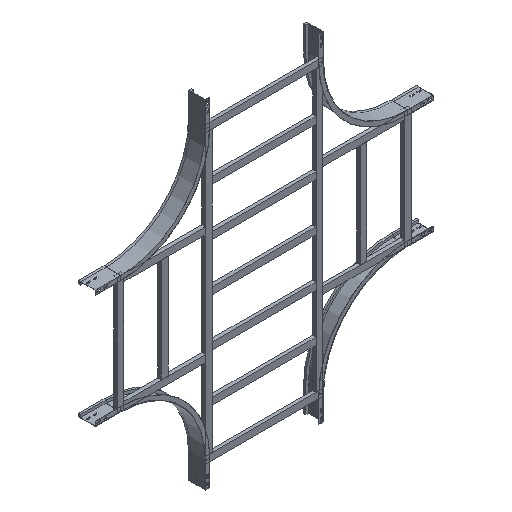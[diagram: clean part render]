
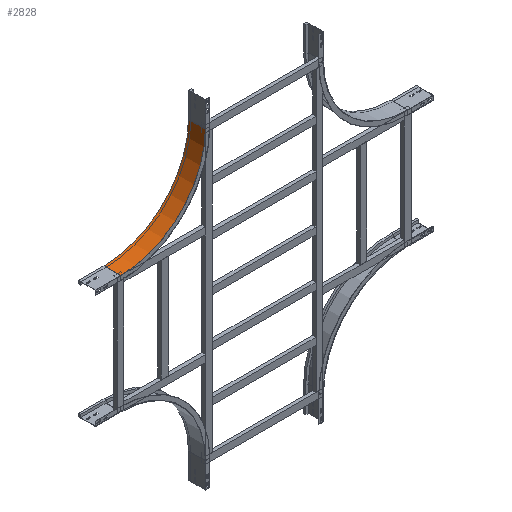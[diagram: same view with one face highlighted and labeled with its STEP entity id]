
A CAD part, isometric view. The second image highlights one B-rep face of the part: STEP entity #2828.
In plain terms, the highlighted cylindrical face has radius 500 mm (diameter 1000 mm), a partial arc.
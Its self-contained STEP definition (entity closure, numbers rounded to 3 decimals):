
#65 = ORIENTED_EDGE ( 'NONE', *, *, #2719, .T. ) ;
#101 = CARTESIAN_POINT ( 'NONE',  ( 500., 100., -650. ) ) ;
#131 = CARTESIAN_POINT ( 'NONE',  ( 500., 100., -150. ) ) ;
#159 = ORIENTED_EDGE ( 'NONE', *, *, #606, .F. ) ;
#242 = CARTESIAN_POINT ( 'NONE',  ( 500., 0., -150. ) ) ;
#268 = CARTESIAN_POINT ( 'NONE',  ( 0., 100., -150. ) ) ;
#333 = LINE ( 'NONE', #346, #2154 ) ;
#346 = CARTESIAN_POINT ( 'NONE',  ( 500., 0., -650. ) ) ;
#375 = CARTESIAN_POINT ( 'NONE',  ( 0., 0., -150. ) ) ;
#426 = CYLINDRICAL_SURFACE ( 'NONE', #2583, 500. ) ;
#606 = EDGE_CURVE ( 'NONE', #1827, #931, #1016, .T. ) ;
#736 = DIRECTION ( 'NONE',  ( -1., 0., 0. ) ) ;
#815 = DIRECTION ( 'NONE',  ( 0., -1., 0. ) ) ;
#816 = CIRCLE ( 'NONE', #2051, 500. ) ;
#868 = VERTEX_POINT ( 'NONE', #1809 ) ;
#887 = DIRECTION ( 'NONE',  ( 0., -1., 0. ) ) ;
#931 = VERTEX_POINT ( 'NONE', #268 ) ;
#932 = FACE_OUTER_BOUND ( 'NONE', #1373, .T. ) ;
#936 = VECTOR ( 'NONE', #1712, 1000. ) ;
#1016 = LINE ( 'NONE', #1468, #936 ) ;
#1061 = CIRCLE ( 'NONE', #1530, 500. ) ;
#1097 = VERTEX_POINT ( 'NONE', #101 ) ;
#1137 = EDGE_CURVE ( 'NONE', #931, #1097, #1061, .T. ) ;
#1179 = CARTESIAN_POINT ( 'NONE',  ( 500., 0., -150. ) ) ;
#1342 = ORIENTED_EDGE ( 'NONE', *, *, #1137, .F. ) ;
#1373 = EDGE_LOOP ( 'NONE', ( #1342, #159, #2553, #65 ) ) ;
#1468 = CARTESIAN_POINT ( 'NONE',  ( 0., 0., -150. ) ) ;
#1530 = AXIS2_PLACEMENT_3D ( 'NONE', #131, #815, #1722 ) ;
#1712 = DIRECTION ( 'NONE',  ( 0., 1., 0. ) ) ;
#1722 = DIRECTION ( 'NONE',  ( -1., 0., 0. ) ) ;
#1809 = CARTESIAN_POINT ( 'NONE',  ( 500., 0., -650. ) ) ;
#1827 = VERTEX_POINT ( 'NONE', #375 ) ;
#1832 = DIRECTION ( 'NONE',  ( 0., 0., -1. ) ) ;
#1922 = DIRECTION ( 'NONE',  ( 0., 1., 0. ) ) ;
#2051 = AXIS2_PLACEMENT_3D ( 'NONE', #1179, #2766, #736 ) ;
#2154 = VECTOR ( 'NONE', #1922, 1000. ) ;
#2213 = EDGE_CURVE ( 'NONE', #1827, #868, #816, .T. ) ;
#2553 = ORIENTED_EDGE ( 'NONE', *, *, #2213, .T. ) ;
#2583 = AXIS2_PLACEMENT_3D ( 'NONE', #242, #887, #1832 ) ;
#2719 = EDGE_CURVE ( 'NONE', #868, #1097, #333, .T. ) ;
#2766 = DIRECTION ( 'NONE',  ( 0., -1., 0. ) ) ;
#2828 = ADVANCED_FACE ( 'NONE', ( #932 ), #426, .F. ) ;
